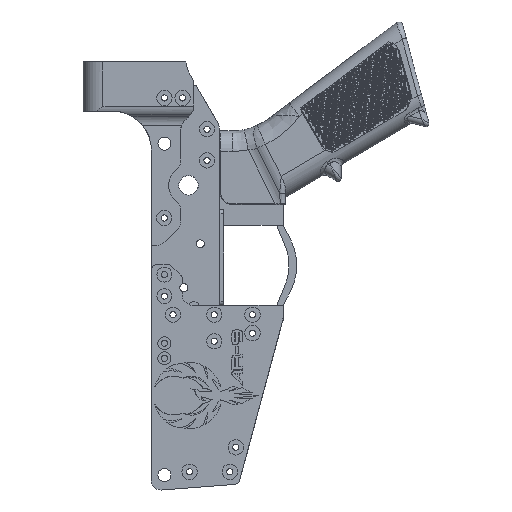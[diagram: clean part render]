
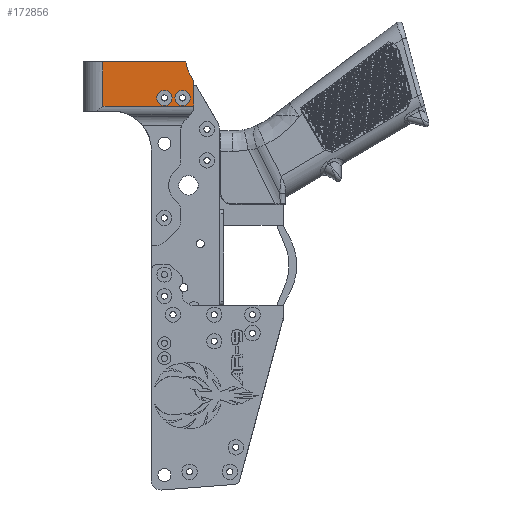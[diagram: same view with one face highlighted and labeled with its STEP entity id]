
A CAD part, left-side view. The second image highlights one B-rep face of the part: STEP entity #172856.
In plain terms, the highlighted planar face has unit normal (-1, 0, 0).
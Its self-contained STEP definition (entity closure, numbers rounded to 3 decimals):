
#173 = VERTEX_POINT ( 'NONE', #208680 ) ;
#10759 = DIRECTION ( 'NONE',  ( -1., 0., 0. ) ) ;
#13237 = CARTESIAN_POINT ( 'NONE',  ( -25., -22.327, -6.35 ) ) ;
#17778 = ORIENTED_EDGE ( 'NONE', *, *, #86966, .T. ) ;
#26167 = EDGE_LOOP ( 'NONE', ( #219689, #123514, #102008, #117535, #17778, #61107 ) ) ;
#26221 = CARTESIAN_POINT ( 'NONE',  ( -25., -36.779, 11.224 ) ) ;
#27145 = CARTESIAN_POINT ( 'NONE',  ( -25., -22.327, -10.1 ) ) ;
#29153 = CARTESIAN_POINT ( 'NONE',  ( -25., -22.327, -2.6 ) ) ;
#29509 = FACE_BOUND ( 'NONE', #109242, .T. ) ;
#35494 = AXIS2_PLACEMENT_3D ( 'NONE', #13237, #194398, #148902 ) ;
#36459 = CARTESIAN_POINT ( 'NONE',  ( -25., -36.779, -10.291 ) ) ;
#37088 = LINE ( 'NONE', #97039, #242466 ) ;
#41662 = VECTOR ( 'NONE', #124515, 1000. ) ;
#42502 = VERTEX_POINT ( 'NONE', #116725 ) ;
#45340 = CARTESIAN_POINT ( 'NONE',  ( -25., -47.779, 12.707 ) ) ;
#46016 = CARTESIAN_POINT ( 'NONE',  ( -25., -31.217, -6.35 ) ) ;
#51116 = EDGE_CURVE ( 'NONE', #182887, #251892, #93788, .T. ) ;
#57390 = DIRECTION ( 'NONE',  ( 0., 0., -1. ) ) ;
#60985 = CIRCLE ( 'NONE', #198262, 3.75 ) ;
#61107 = ORIENTED_EDGE ( 'NONE', *, *, #83733, .T. ) ;
#62058 = ORIENTED_EDGE ( 'NONE', *, *, #161734, .F. ) ;
#66079 = FACE_BOUND ( 'NONE', #111135, .T. ) ;
#69721 = LINE ( 'NONE', #185763, #41662 ) ;
#76113 = CARTESIAN_POINT ( 'NONE',  ( -25., -36.779, -10.291 ) ) ;
#78650 = ORIENTED_EDGE ( 'NONE', *, *, #181987, .F. ) ;
#83136 = EDGE_CURVE ( 'NONE', #102518, #112757, #37088, .T. ) ;
#83733 = EDGE_CURVE ( 'NONE', #42502, #173, #241358, .T. ) ;
#86966 = EDGE_CURVE ( 'NONE', #112757, #42502, #135260, .T. ) ;
#87742 = CARTESIAN_POINT ( 'NONE',  ( -25., -22.327, -6.35 ) ) ;
#89601 = EDGE_CURVE ( 'NONE', #179841, #164387, #239486, .T. ) ;
#92019 = DIRECTION ( 'NONE',  ( 0., 0., -1. ) ) ;
#93788 = CIRCLE ( 'NONE', #127096, 3.75 ) ;
#96870 = AXIS2_PLACEMENT_3D ( 'NONE', #168600, #228558, #130752 ) ;
#97039 = CARTESIAN_POINT ( 'NONE',  ( -25., -32.779, 8.688 ) ) ;
#101046 = VECTOR ( 'NONE', #160561, 1000. ) ;
#102008 = ORIENTED_EDGE ( 'NONE', *, *, #149752, .T. ) ;
#102518 = VERTEX_POINT ( 'NONE', #132162 ) ;
#106595 = DIRECTION ( 'NONE',  ( 0., 0., -1. ) ) ;
#109024 = FACE_OUTER_BOUND ( 'NONE', #26167, .T. ) ;
#109242 = EDGE_LOOP ( 'NONE', ( #78650, #202091 ) ) ;
#111135 = EDGE_LOOP ( 'NONE', ( #62058, #144821 ) ) ;
#112757 = VERTEX_POINT ( 'NONE', #237932 ) ;
#116725 = CARTESIAN_POINT ( 'NONE',  ( -25., -32.853, 11.224 ) ) ;
#117535 = ORIENTED_EDGE ( 'NONE', *, *, #83136, .T. ) ;
#121478 = EDGE_CURVE ( 'NONE', #153610, #134257, #256766, .T. ) ;
#121662 = DIRECTION ( 'NONE',  ( -1., 0., 0. ) ) ;
#123514 = ORIENTED_EDGE ( 'NONE', *, *, #121478, .T. ) ;
#124515 = DIRECTION ( 'NONE',  ( 0., 0., 1. ) ) ;
#127096 = AXIS2_PLACEMENT_3D ( 'NONE', #46016, #121662, #146368 ) ;
#130169 = CIRCLE ( 'NONE', #96870, 3.75 ) ;
#130752 = DIRECTION ( 'NONE',  ( 0., 0., 1. ) ) ;
#132162 = CARTESIAN_POINT ( 'NONE',  ( -25., -36.779, 1.76 ) ) ;
#134257 = VERTEX_POINT ( 'NONE', #76113 ) ;
#134598 = CARTESIAN_POINT ( 'NONE',  ( -25., -31.217, -10.1 ) ) ;
#135260 = CIRCLE ( 'NONE', #176359, 15. ) ;
#139383 = DIRECTION ( 'NONE',  ( 0., -1., 0. ) ) ;
#144821 = ORIENTED_EDGE ( 'NONE', *, *, #89601, .F. ) ;
#145577 = PLANE ( 'NONE',  #211525 ) ;
#146368 = DIRECTION ( 'NONE',  ( 0., 0., 1. ) ) ;
#147044 = VECTOR ( 'NONE', #57390, 1000. ) ;
#148186 = CARTESIAN_POINT ( 'NONE',  ( -25., 7.678, -10.291 ) ) ;
#148902 = DIRECTION ( 'NONE',  ( 0., 0., 1. ) ) ;
#149752 = EDGE_CURVE ( 'NONE', #134257, #102518, #69721, .T. ) ;
#153610 = VERTEX_POINT ( 'NONE', #148186 ) ;
#155119 = LINE ( 'NONE', #234659, #147044 ) ;
#157039 = CARTESIAN_POINT ( 'NONE',  ( -25., -31.217, -2.6 ) ) ;
#160561 = DIRECTION ( 'NONE',  ( 0., 1., 0. ) ) ;
#161734 = EDGE_CURVE ( 'NONE', #164387, #179841, #60985, .T. ) ;
#164387 = VERTEX_POINT ( 'NONE', #29153 ) ;
#165246 = DIRECTION ( 'NONE',  ( 1., 0., 0. ) ) ;
#168600 = CARTESIAN_POINT ( 'NONE',  ( -25., -31.217, -6.35 ) ) ;
#172856 = ADVANCED_FACE ( 'NONE', ( #29509, #66079, #109024 ), #145577, .F. ) ;
#176359 = AXIS2_PLACEMENT_3D ( 'NONE', #45340, #165246, #106595 ) ;
#179841 = VERTEX_POINT ( 'NONE', #27145 ) ;
#181987 = EDGE_CURVE ( 'NONE', #251892, #182887, #130169, .T. ) ;
#182887 = VERTEX_POINT ( 'NONE', #134598 ) ;
#185763 = CARTESIAN_POINT ( 'NONE',  ( -25., -36.779, -288600.29 ) ) ;
#194398 = DIRECTION ( 'NONE',  ( -1., 0., 0. ) ) ;
#196070 = DIRECTION ( 'NONE',  ( 0., 0.5, 0.866 ) ) ;
#198262 = AXIS2_PLACEMENT_3D ( 'NONE', #87742, #10759, #248034 ) ;
#202091 = ORIENTED_EDGE ( 'NONE', *, *, #51116, .F. ) ;
#208680 = CARTESIAN_POINT ( 'NONE',  ( -25., 7.678, 11.224 ) ) ;
#211525 = AXIS2_PLACEMENT_3D ( 'NONE', #225088, #251068, #92019 ) ;
#219689 = ORIENTED_EDGE ( 'NONE', *, *, #227206, .T. ) ;
#225088 = CARTESIAN_POINT ( 'NONE',  ( -25., -36.779, -288600.29 ) ) ;
#227206 = EDGE_CURVE ( 'NONE', #173, #153610, #155119, .T. ) ;
#228225 = VECTOR ( 'NONE', #139383, 1000. ) ;
#228558 = DIRECTION ( 'NONE',  ( -1., 0., 0. ) ) ;
#234659 = CARTESIAN_POINT ( 'NONE',  ( -25., 7.678, -12.776 ) ) ;
#237932 = CARTESIAN_POINT ( 'NONE',  ( -25., -34.789, 5.207 ) ) ;
#239486 = CIRCLE ( 'NONE', #35494, 3.75 ) ;
#241358 = LINE ( 'NONE', #26221, #101046 ) ;
#242466 = VECTOR ( 'NONE', #196070, 1000. ) ;
#248034 = DIRECTION ( 'NONE',  ( 0., 0., 1. ) ) ;
#251068 = DIRECTION ( 'NONE',  ( 1., 0., 0. ) ) ;
#251892 = VERTEX_POINT ( 'NONE', #157039 ) ;
#256766 = LINE ( 'NONE', #36459, #228225 ) ;
